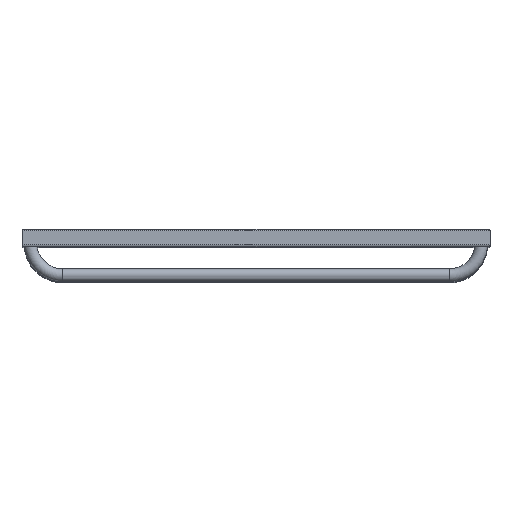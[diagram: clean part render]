
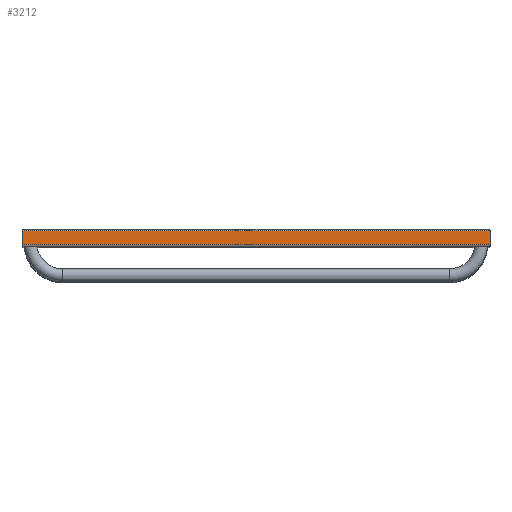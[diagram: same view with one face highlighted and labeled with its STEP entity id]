
A CAD part, top view. The second image highlights one B-rep face of the part: STEP entity #3212.
In plain terms, the highlighted planar face has unit normal (0, 0, 1).
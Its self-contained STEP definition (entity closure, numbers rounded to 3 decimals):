
#243=CARTESIAN_POINT('',(400.0,12.,1215.0));
#244=VERTEX_POINT('',#243);
#251=CARTESIAN_POINT('',(400.0,-12.,1215.0));
#252=VERTEX_POINT('',#251);
#253=CARTESIAN_POINT('',(400.0,12.,1215.0));
#254=DIRECTION('',(0.0,-1.0,0.0));
#255=VECTOR('',#254,24.);
#256=LINE('',#253,#255);
#257=EDGE_CURVE('',#244,#252,#256,.T.);
#3063=CARTESIAN_POINT('',(-400.,12.,1215.0));
#3064=VERTEX_POINT('',#3063);
#3065=CARTESIAN_POINT('',(-400.0,12.,1215.0));
#3066=DIRECTION('',(1.0,0.0,0.0));
#3067=VECTOR('',#3066,800.0);
#3068=LINE('',#3065,#3067);
#3069=EDGE_CURVE('',#3064,#244,#3068,.T.);
#3107=CARTESIAN_POINT('',(-400.,-12.,1215.0));
#3108=VERTEX_POINT('',#3107);
#3115=CARTESIAN_POINT('',(-400.,-12.,1215.0));
#3116=DIRECTION('',(0.0,1.0,0.0));
#3117=VECTOR('',#3116,24.);
#3118=LINE('',#3115,#3117);
#3119=EDGE_CURVE('',#3108,#3064,#3118,.T.);
#3171=CARTESIAN_POINT('',(400.0,-12.,1215.0));
#3172=DIRECTION('',(-1.0,0.0,0.0));
#3173=VECTOR('',#3172,800.0);
#3174=LINE('',#3171,#3173);
#3175=EDGE_CURVE('',#252,#3108,#3174,.T.);
#3201=CARTESIAN_POINT('',(385.0,0.,1215.0));
#3202=DIRECTION('',(0.0,0.0,1.0));
#3203=DIRECTION('',(1.0,0.0,0.0));
#3204=AXIS2_PLACEMENT_3D('',#3201,#3202,#3203);
#3205=PLANE('',#3204);
#3206=ORIENTED_EDGE('',*,*,#3069,.F.);
#3207=ORIENTED_EDGE('',*,*,#3119,.F.);
#3208=ORIENTED_EDGE('',*,*,#3175,.F.);
#3209=ORIENTED_EDGE('',*,*,#257,.F.);
#3210=EDGE_LOOP('',(#3206,#3207,#3208,#3209));
#3211=FACE_OUTER_BOUND('',#3210,.T.);
#3212=ADVANCED_FACE('',(#3211),#3205,.T.);
